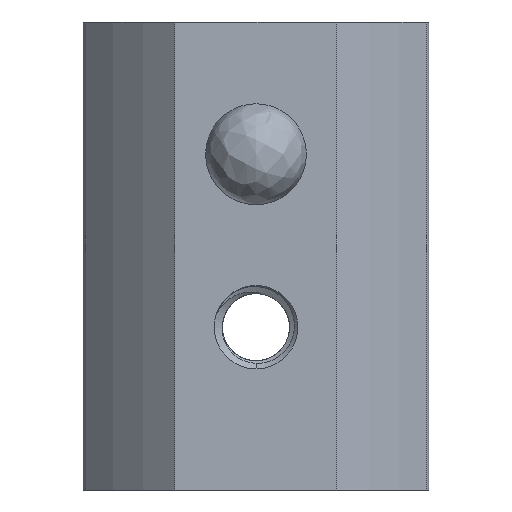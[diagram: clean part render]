
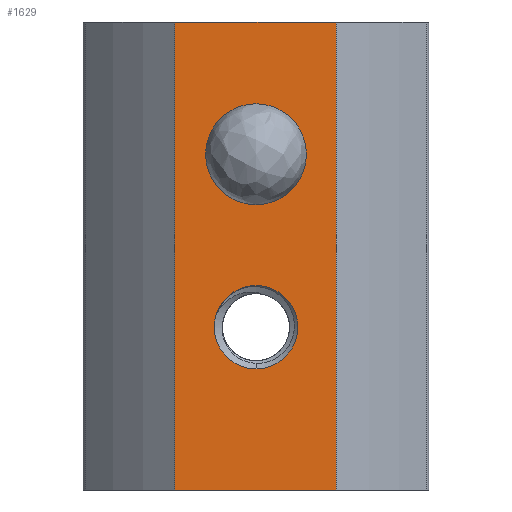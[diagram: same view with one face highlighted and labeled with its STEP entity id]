
A CAD part, front view. The second image highlights one B-rep face of the part: STEP entity #1629.
In plain terms, the highlighted planar face has unit normal (0, -1, 0).
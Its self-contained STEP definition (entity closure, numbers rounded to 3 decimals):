
#58 = FACE_BOUND ( 'NONE', #3297, .T. ) ;
#193 = ORIENTED_EDGE ( 'NONE', *, *, #1948, .T. ) ;
#439 = FACE_BOUND ( 'NONE', #1627, .T. ) ;
#465 = DIRECTION ( 'NONE',  ( 0., 0., -1. ) ) ;
#665 = CARTESIAN_POINT ( 'NONE',  ( 3.95, -9.6, -1. ) ) ;
#871 = CARTESIAN_POINT ( 'NONE',  ( 3.95, -9.6, 22. ) ) ;
#970 = ORIENTED_EDGE ( 'NONE', *, *, #4184, .T. ) ;
#1074 = CARTESIAN_POINT ( 'NONE',  ( 3.95, -9.6, 22. ) ) ;
#1092 = AXIS2_PLACEMENT_3D ( 'NONE', #4354, #4383, #2989 ) ;
#1300 = DIRECTION ( 'NONE',  ( 0., 0., -1. ) ) ;
#1311 = DIRECTION ( 'NONE',  ( 0., 0., 1. ) ) ;
#1371 = DIRECTION ( 'NONE',  ( 0., -1., 0. ) ) ;
#1574 = LINE ( 'NONE', #2039, #2385 ) ;
#1599 = VECTOR ( 'NONE', #5241, 1000. ) ;
#1603 = DIRECTION ( 'NONE',  ( 0., 0., 1. ) ) ;
#1627 = EDGE_LOOP ( 'NONE', ( #5129, #2913 ) ) ;
#1629 = ADVANCED_FACE ( 'NONE', ( #58, #4542, #439 ), #2346, .T. ) ;
#1690 = CARTESIAN_POINT ( 'NONE',  ( 0., -9.6, 13.02 ) ) ;
#1775 = ORIENTED_EDGE ( 'NONE', *, *, #2392, .T. ) ;
#1817 = CIRCLE ( 'NONE', #3232, 2.48 ) ;
#1891 = CARTESIAN_POINT ( 'NONE',  ( 0., -9.6, 4.95 ) ) ;
#1948 = EDGE_CURVE ( 'NONE', #5347, #4665, #1574, .T. ) ;
#2039 = CARTESIAN_POINT ( 'NONE',  ( 3.95, -9.6, 0. ) ) ;
#2098 = DIRECTION ( 'NONE',  ( 0., 0., -1. ) ) ;
#2242 = EDGE_CURVE ( 'NONE', #3012, #4796, #1817, .T. ) ;
#2346 = PLANE ( 'NONE',  #4624 ) ;
#2385 = VECTOR ( 'NONE', #1603, 1000. ) ;
#2392 = EDGE_CURVE ( 'NONE', #4665, #4252, #5653, .T. ) ;
#2451 = CARTESIAN_POINT ( 'NONE',  ( 3.95, -9.6, -1. ) ) ;
#2452 = CARTESIAN_POINT ( 'NONE',  ( 0., -9.6, 9.05 ) ) ;
#2470 = EDGE_CURVE ( 'NONE', #3759, #4011, #3972, .T. ) ;
#2557 = VERTEX_POINT ( 'NONE', #4208 ) ;
#2632 = LINE ( 'NONE', #4407, #1599 ) ;
#2672 = DIRECTION ( 'NONE',  ( -1., 0., 0. ) ) ;
#2721 = CARTESIAN_POINT ( 'NONE',  ( 0., -9.6, 17.98 ) ) ;
#2772 = VECTOR ( 'NONE', #2672, 1000. ) ;
#2836 = CARTESIAN_POINT ( 'NONE',  ( -4., -9.6, 22. ) ) ;
#2862 = EDGE_CURVE ( 'NONE', #5347, #2557, #4614, .T. ) ;
#2899 = ORIENTED_EDGE ( 'NONE', *, *, #5438, .T. ) ;
#2913 = ORIENTED_EDGE ( 'NONE', *, *, #5642, .T. ) ;
#2989 = DIRECTION ( 'NONE',  ( 0., 0., 1. ) ) ;
#2991 = DIRECTION ( 'NONE',  ( 0., 1., 0. ) ) ;
#3012 = VERTEX_POINT ( 'NONE', #2721 ) ;
#3116 = CARTESIAN_POINT ( 'NONE',  ( 0., -9.6, 15.5 ) ) ;
#3125 = ORIENTED_EDGE ( 'NONE', *, *, #2470, .T. ) ;
#3170 = AXIS2_PLACEMENT_3D ( 'NONE', #3217, #3512, #1300 ) ;
#3217 = CARTESIAN_POINT ( 'NONE',  ( 0., -9.6, 7. ) ) ;
#3232 = AXIS2_PLACEMENT_3D ( 'NONE', #3116, #5290, #1311 ) ;
#3297 = EDGE_LOOP ( 'NONE', ( #2899, #3125 ) ) ;
#3512 = DIRECTION ( 'NONE',  ( 0., 1., 0. ) ) ;
#3740 = DIRECTION ( 'NONE',  ( -1., 0., 0. ) ) ;
#3759 = VERTEX_POINT ( 'NONE', #2452 ) ;
#3818 = ORIENTED_EDGE ( 'NONE', *, *, #2862, .F. ) ;
#3972 = CIRCLE ( 'NONE', #4156, 2.05 ) ;
#4011 = VERTEX_POINT ( 'NONE', #1891 ) ;
#4156 = AXIS2_PLACEMENT_3D ( 'NONE', #5682, #2991, #2098 ) ;
#4184 = EDGE_CURVE ( 'NONE', #4252, #2557, #2632, .T. ) ;
#4208 = CARTESIAN_POINT ( 'NONE',  ( -4., -9.6, -1. ) ) ;
#4252 = VERTEX_POINT ( 'NONE', #2836 ) ;
#4354 = CARTESIAN_POINT ( 'NONE',  ( 0., -9.6, 15.5 ) ) ;
#4383 = DIRECTION ( 'NONE',  ( 0., 1., 0. ) ) ;
#4407 = CARTESIAN_POINT ( 'NONE',  ( -4., -9.6, 0. ) ) ;
#4455 = CARTESIAN_POINT ( 'NONE',  ( 3.95, -9.6, 0. ) ) ;
#4542 = FACE_OUTER_BOUND ( 'NONE', #4914, .T. ) ;
#4614 = LINE ( 'NONE', #2451, #4731 ) ;
#4624 = AXIS2_PLACEMENT_3D ( 'NONE', #4455, #1371, #465 ) ;
#4665 = VERTEX_POINT ( 'NONE', #1074 ) ;
#4731 = VECTOR ( 'NONE', #3740, 1000. ) ;
#4796 = VERTEX_POINT ( 'NONE', #1690 ) ;
#4914 = EDGE_LOOP ( 'NONE', ( #970, #3818, #193, #1775 ) ) ;
#5129 = ORIENTED_EDGE ( 'NONE', *, *, #2242, .T. ) ;
#5241 = DIRECTION ( 'NONE',  ( 0., 0., -1. ) ) ;
#5290 = DIRECTION ( 'NONE',  ( 0., 1., 0. ) ) ;
#5347 = VERTEX_POINT ( 'NONE', #665 ) ;
#5438 = EDGE_CURVE ( 'NONE', #4011, #3759, #5784, .T. ) ;
#5642 = EDGE_CURVE ( 'NONE', #4796, #3012, #5690, .T. ) ;
#5653 = LINE ( 'NONE', #871, #2772 ) ;
#5682 = CARTESIAN_POINT ( 'NONE',  ( 0., -9.6, 7. ) ) ;
#5690 = CIRCLE ( 'NONE', #1092, 2.48 ) ;
#5784 = CIRCLE ( 'NONE', #3170, 2.05 ) ;
